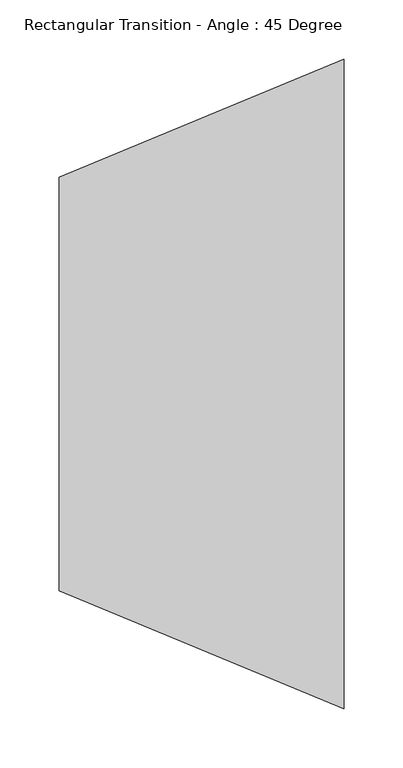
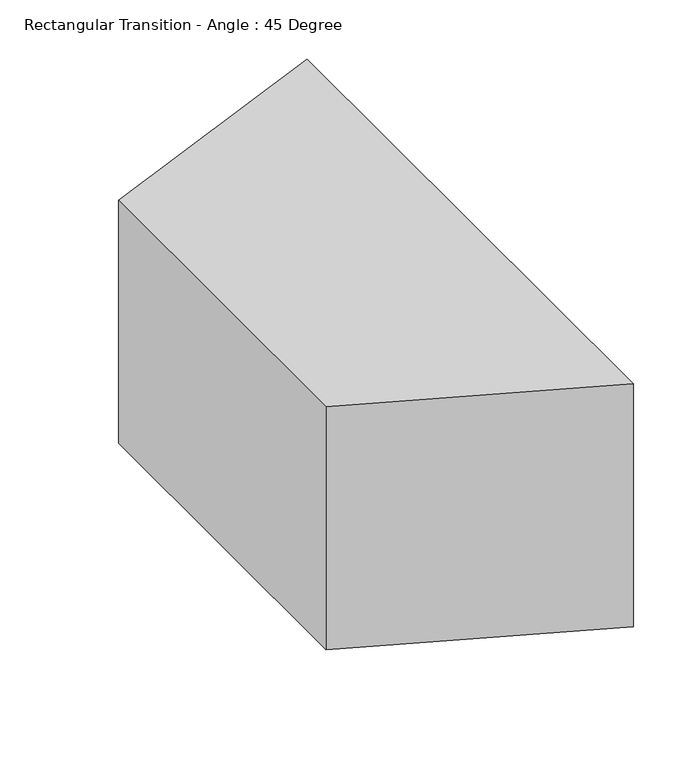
"""IFC4 building model written with IfcOpenShell, lengths in millimetres: duct fitting geometry, Rectangular Transition - Angle : 45 Degree."""

from ifc_helpers import new_model, si_unit, frame, origin, place, context, project, spatial, polyline, outline, extrude, source, transform, mapped, element, save


def rectangular_transition_angle_45_degree_58481bb1(model_context):
    return source(origin(), model_context, "Body", "SweptSolid", [
        extrude(outline(polyline([(0.0, -175.0), (0.0, 175.0), (241.4213562, 275.0), (241.4213562, -275.0), (0.0, -175.0)])), frame((0.0, 0.0, -125.0), z_axis=(0.0, 0.0, 1.0), x_axis=(1.0, 0.0, 0.0)), (0.0, 0.0, 1.0), 250.0),
    ])


if __name__ == "__main__":
    model = new_model("IFC4")
    model_context = context("Model", 3, world=origin())
    ifc_project = project(units=[si_unit("LENGTHUNIT", "METRE", prefix="MILLI")], contexts=[model_context])
    site = spatial("IfcSite", under=ifc_project)
    building = spatial("IfcBuilding", under=site)
    placement = place(None, origin())
    rectangular_transition_angle_45_degree_shape = rectangular_transition_angle_45_degree_58481bb1(model_context)
    element("IfcDuctFitting", 1, ObjectType="Rectangular Transition - Angle : 45 Degree", at=placement, inside=building, context=model_context, shape_type="MappedRepresentation", body=[
        mapped(rectangular_transition_angle_45_degree_shape, transform((0.0, 0.0, 0.0), x_axis=(1.0, 0.0, 0.0), y_axis=(0.0, 1.0, 0.0), z_axis=(0.0, 0.0, 1.0))),
    ])
    save(model, "model.ifc")
